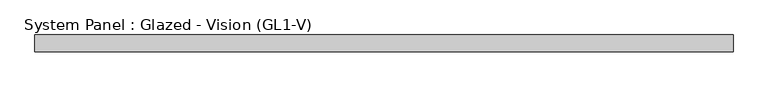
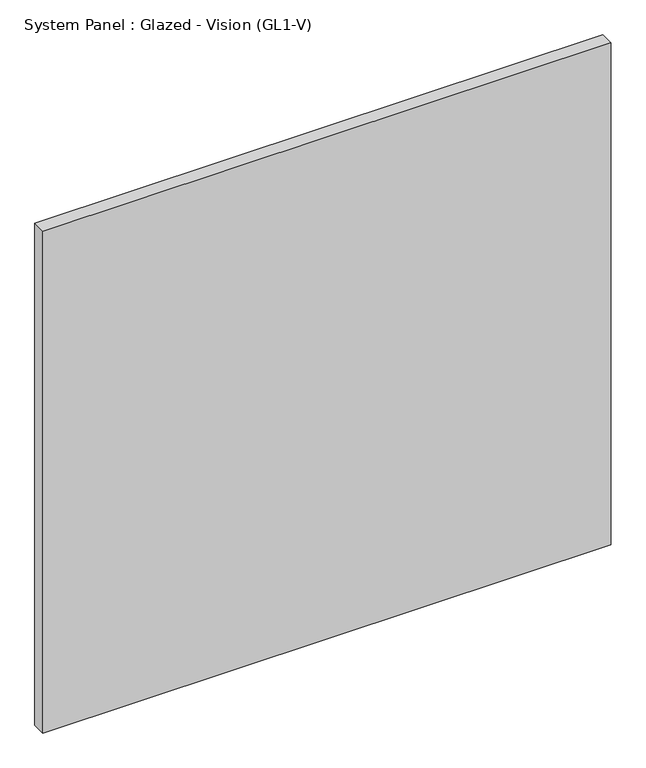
"""IFC4 building model written with IfcOpenShell, lengths in millimetres: plate geometry, System Panel : Glazed - Vision (GL1-V)."""

import ifcopenshell
import ifcopenshell.guid

model = None  # the IFC model being written
_history = None  # IfcOwnerHistory: only IFC2X3 demands one
_inside = {}  # id of a spatial element -> (the spatial element, [elements in it])
_under = {}  # id of a project, library or spatial element -> (it, [spatial elements below it])
_declared = {}  # id of a project -> (the project, [libraries it declares])
_typed = {}  # id of a type object -> (the type object, [elements of that type])
_made_of = {}  # id of a material, layer set ... -> (it, [elements and type objects made of it])


def new_model(schema):
    """Start an empty IFC model of exactly this schema.

    Asked for "IFC4X3", IfcOpenShell would pick the latest addendum, in which some entities
    have other attributes; the version numbers below select the first issue.
    IFC2X3 requires an IfcOwnerHistory on every rooted entity: one is made here for all.
    """
    global model, _history
    if schema == "IFC4X3":
        model = ifcopenshell.file(schema_version=(4, 3, 0, 0))
    else:
        model = ifcopenshell.file(schema=schema)
    _inside.clear()
    _under.clear()
    _declared.clear()
    _typed.clear()
    _made_of.clear()
    _history = None
    if model.schema == "IFC2X3":
        org = make("IfcOrganization", Name="unknown")
        user = make(
            "IfcPersonAndOrganization",
            ThePerson=make("IfcPerson", FamilyName="unknown"),
            TheOrganization=org,
        )
        app = make(
            "IfcApplication",
            ApplicationDeveloper=org,
            Version="unknown",
            ApplicationFullName="unknown",
            ApplicationIdentifier="unknown",
        )
        _history = make(
            "IfcOwnerHistory",
            OwningUser=user,
            OwningApplication=app,
            ChangeAction="ADDED",
            CreationDate=0,
        )
    return model


def make(cls, **values):
    """One entity of the class cls with the attributes given. An attribute that is None is left unset."""
    return model.create_entity(
        cls, **{name: value for name, value in values.items() if value is not None}
    )


def rooted(cls, **values):
    """An entity with a GlobalId (a new one), such as an element, a storey or a relation."""
    return make(cls, GlobalId=ifcopenshell.guid.new(), OwnerHistory=_history, **values)


def si_unit(unit_type, name, prefix=None):
    """IfcSIUnit, for example si_unit("LENGTHUNIT", "METRE", prefix="MILLI")."""
    return make("IfcSIUnit", UnitType=unit_type, Prefix=prefix, Name=name)


def assignment(units):
    """IfcUnitAssignment: the units of a project."""
    return None if units is None else make("IfcUnitAssignment", Units=units)


def point(xyz):
    """IfcCartesianPoint."""
    return None if xyz is None else make("IfcCartesianPoint", Coordinates=xyz)


def direction(xyz):
    """IfcDirection."""
    return None if xyz is None else make("IfcDirection", DirectionRatios=xyz)


def frame(location, z_axis=None, x_axis=None):
    """IfcAxis2Placement3D, a coordinate frame: its origin and axes. An axis left out is left unset."""
    return make(
        "IfcAxis2Placement3D",
        Location=point(location),
        Axis=direction(z_axis),
        RefDirection=direction(x_axis),
    )


def origin():
    """The frame at (0, 0, 0) with its axes left unset."""
    return frame((0.0, 0.0, 0.0))


def origin_with_axes():
    """The frame at (0, 0, 0) with the z axis (0, 0, 1) and the x axis (1, 0, 0) written out."""
    return frame((0.0, 0.0, 0.0), z_axis=(0.0, 0.0, 1.0), x_axis=(1.0, 0.0, 0.0))


def place(relative_to, where):
    """IfcLocalPlacement: puts the frame where relative to a parent placement (None: the world)."""
    return make(
        "IfcLocalPlacement", PlacementRelTo=relative_to, RelativePlacement=where
    )


def context(
    kind, dimensions, precision=None, world=None, true_north=None, identifier=None
):
    """IfcGeometricRepresentationContext, for example the 3D "Model" context."""
    return make(
        "IfcGeometricRepresentationContext",
        ContextIdentifier=identifier,
        ContextType=kind,
        CoordinateSpaceDimension=dimensions,
        Precision=precision,
        WorldCoordinateSystem=world,
        TrueNorth=true_north,
    )


def project(units=None, contexts=None):
    """IfcProject with its units and contexts."""
    return rooted(
        "IfcProject",
        Name="project",
        RepresentationContexts=contexts,
        UnitsInContext=assignment(units),
    )


def spatial(cls, under=None, at=None, **own):
    """A site, building, storey or space (cls), placed at a placement, below another one or the project."""
    s = rooted(cls, ObjectPlacement=at, **own)
    if under is not None:
        _under.setdefault(under.id(), (under, []))[1].append(s)
    return s


def polyline(points):
    """IfcPolyline through the points."""
    return make("IfcPolyline", Points=[point(p) for p in points])


def outline(outer, holes=None, kind="AREA"):
    """IfcArbitraryClosedProfileDef: a profile drawn as a closed curve; with holes, ...WithVoids."""
    if holes is None:
        return make("IfcArbitraryClosedProfileDef", ProfileType=kind, OuterCurve=outer)
    return make(
        "IfcArbitraryProfileDefWithVoids",
        ProfileType=kind,
        OuterCurve=outer,
        InnerCurves=holes,
    )


def extrude(swept, where, along, depth):
    """IfcExtrudedAreaSolid: the profile swept, set in the frame where, extruded along a direction by depth."""
    return make(
        "IfcExtrudedAreaSolid",
        SweptArea=swept,
        Position=where,
        ExtrudedDirection=direction(along),
        Depth=depth,
    )


def shape(context_of_items, identifier, shape_type, items):
    """IfcShapeRepresentation: the items that make up one representation, for example the "Body"."""
    return make(
        "IfcShapeRepresentation",
        ContextOfItems=context_of_items,
        RepresentationIdentifier=identifier,
        RepresentationType=shape_type,
        Items=items,
    )


def source(mapping_origin, context_of_items, identifier, shape_type, items):
    """IfcRepresentationMap: a shape defined once, which mapped items show again and again."""
    return make(
        "IfcRepresentationMap",
        MappingOrigin=mapping_origin,
        MappedRepresentation=shape(context_of_items, identifier, shape_type, items),
    )


def transform(
    local_origin,
    x_axis=None,
    y_axis=None,
    z_axis=None,
    scale=None,
    scale2=None,
    scale3=None,
    uniform=True,
):
    """IfcCartesianTransformationOperator3D, or its non-uniform kind. x_axis, y_axis, z_axis: its Axis1, 2, 3."""
    if uniform:
        return make(
            "IfcCartesianTransformationOperator3D",
            Axis1=direction(x_axis),
            Axis2=direction(y_axis),
            LocalOrigin=point(local_origin),
            Scale=scale,
            Axis3=direction(z_axis),
        )
    return make(
        "IfcCartesianTransformationOperator3DnonUniform",
        Axis1=direction(x_axis),
        Axis2=direction(y_axis),
        LocalOrigin=point(local_origin),
        Scale=scale,
        Axis3=direction(z_axis),
        Scale2=scale2,
        Scale3=scale3,
    )


def mapped(mapping_source, mapping_target):
    """IfcMappedItem: shows the shape of a source again, moved by a transform."""
    return make(
        "IfcMappedItem", MappingSource=mapping_source, MappingTarget=mapping_target
    )


def made_of(thing, what):
    """Note that an element or type object is made of a material, layer set ...; save() writes the relation."""
    if what is not None:
        _made_of.setdefault(what.id(), (what, []))[1].append(thing)
    return thing


def element(
    cls,
    number,
    at=None,
    inside=None,
    cuts=None,
    type_object=None,
    material=None,
    context=None,
    identifier="Body",
    shape_type=None,
    held_by="IfcProductDefinitionShape",
    body=None,
    shapes=None,
    **own,
):
    """One element of the class cls, such as IfcWall. Its Tag is "e" and its number.

    at: its placement. inside: the storey or other place that contains it. cuts: it is an
    opening in that element (IfcRelVoidsElement). A single representation is given by context,
    identifier, shape_type and body (its items); several are given by shapes. held_by: the class
    of the entity that holds the representations. save() writes the other relations.
    """
    e = rooted(cls, Tag="e%d" % number, ObjectPlacement=at, **own)
    if body is not None:
        shapes = [shape(context, identifier, shape_type, body)]
    if shapes is not None:
        e.Representation = make(held_by, Representations=shapes)
    if inside is not None:
        _inside.setdefault(inside.id(), (inside, []))[1].append(e)
    if cuts is not None:
        rooted(
            "IfcRelVoidsElement", RelatingBuildingElement=cuts, RelatedOpeningElement=e
        )
    if type_object is not None:
        _typed.setdefault(type_object.id(), (type_object, []))[1].append(e)
    return made_of(e, material)


def aggregate(whole, parts):
    """IfcRelAggregates: a whole, such as a stair, and the parts it consists of."""
    return rooted("IfcRelAggregates", RelatingObject=whole, RelatedObjects=parts)


def save(model, path):
    """Write the relations noted so far, then the file.

    IfcRelAggregates (storeys below a building ...), IfcRelContainedInSpatialStructure (elements
    in a storey), IfcRelDefinesByType, IfcRelAssociatesMaterial and IfcRelDeclares: one each for
    every whole, place, type object, material and project.
    """
    for whole, parts in _under.values():
        aggregate(whole, parts)
    for where, things in _inside.values():
        rooted(
            "IfcRelContainedInSpatialStructure",
            RelatedElements=things,
            RelatingStructure=where,
        )
    for kind, things in _typed.values():
        rooted("IfcRelDefinesByType", RelatedObjects=things, RelatingType=kind)
    for what, things in _made_of.values():
        rooted("IfcRelAssociatesMaterial", RelatedObjects=things, RelatingMaterial=what)
    for by, libraries in _declared.values():
        rooted("IfcRelDeclares", RelatingContext=by, RelatedDefinitions=libraries)
    model.write(path)


def system_panel_glazed_vision_gl1_v_6e342ff0(model_context):
    return source(origin(), model_context, "Body", "SweptSolid", [
        extrude(outline(polyline([(527.05, -25.4), (-527.05, -25.4), (-527.05, 0.0), (527.05, 0.0), (527.05, -25.4)])), origin_with_axes(), (0.0, 0.0, 1.0), 984.25),
    ])


if __name__ == "__main__":
    model = new_model("IFC4")
    model_context = context("Model", 3, world=origin())
    ifc_project = project(units=[si_unit("LENGTHUNIT", "METRE", prefix="MILLI")], contexts=[model_context])
    site = spatial("IfcSite", under=ifc_project)
    building = spatial("IfcBuilding", under=site)
    placement = place(None, origin())
    system_panel_glazed_vision_gl1_v_shape = system_panel_glazed_vision_gl1_v_6e342ff0(model_context)
    element("IfcPlate", 1, ObjectType="System Panel : Glazed - Vision (GL1-V)", at=placement, inside=building, context=model_context, shape_type="MappedRepresentation", body=[
        mapped(system_panel_glazed_vision_gl1_v_shape, transform((0.0, 0.0, 0.0), x_axis=(1.0, 0.0, 0.0), y_axis=(0.0, 1.0, 0.0), z_axis=(0.0, 0.0, 1.0))),
    ])
    save(model, "model.ifc")
